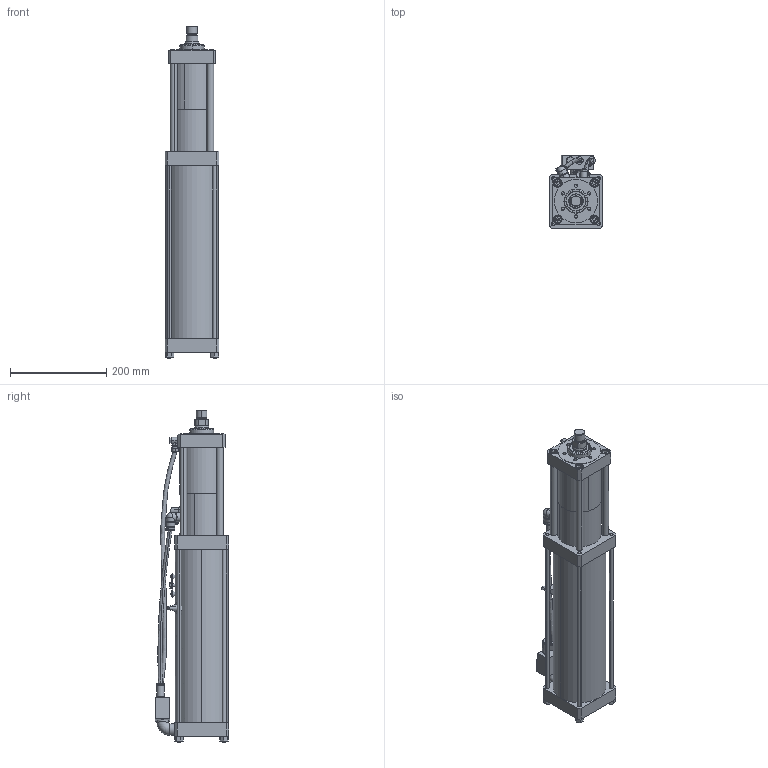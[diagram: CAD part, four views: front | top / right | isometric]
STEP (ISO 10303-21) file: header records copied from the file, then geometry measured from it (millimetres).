
FILE_DESCRIPTION (( 'STEP AP203' ), '1' );
FILE_NAME ('BS04-50-12S.step', '2025-07-31T09:39:36', ( 'Ranlm' ), ( '' ), 'SwSTEP 2.0', 'SolidWorks 2022', '' );
FILE_SCHEMA (( 'CONFIG_CONTROL_DESIGN' ));
Length unit declared in the file: millimetre
Products named in the file (1): BS04-50-12S
Bounding box: 112 x 152 x 691 mm (x, y, z)
Surface area: 424604.2 mm2 (no closed solid volume)
Topology: 0 solids, 48 shells, 540 faces, 1433 edges, 935 vertices
Faces by surface type: plane 233, cylinder 196, cone 86, torus 18, bspline 6, sphere 1
Entity records: 18304 total; most frequent: CARTESIAN_POINT 4569, DIRECTION 3065, ORIENTED_EDGE 2482, EDGE_CURVE 1425, AXIS2_PLACEMENT_3D 1167, VERTEX_POINT 934, VECTOR 731, LINE 731
